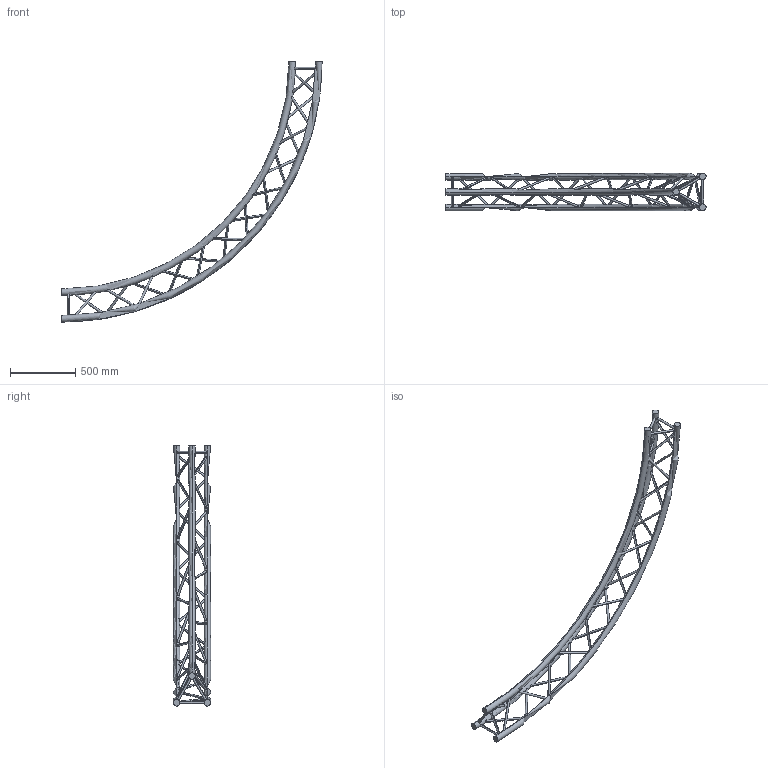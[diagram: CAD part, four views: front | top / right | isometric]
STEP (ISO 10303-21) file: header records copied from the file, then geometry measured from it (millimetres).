
FILE_DESCRIPTION (( 'STEP AP203' ), '1' );
FILE_NAME ('SXC29400PI.STEP', '2009-10-21T08:58:39', ( 'CEDIA' ), ( 'CEDIA INDUSTRIE' ), 'SwSTEP 2.0', 'SolidWorks 2009', '' );
FILE_SCHEMA (( 'CONFIG_CONTROL_DESIGN' ));
Length unit declared in the file: millimetre
Products named in the file (1): SXC29400PI
Bounding box: 2000 x 287 x 2000 mm (x, y, z)
Volume: 19765251.9 mm3; surface area: 1932943.5 mm2
Topology: 1 solids, 1 shells, 96 faces, 270 edges, 180 vertices
Faces by surface type: cylinder 84, torus 6, plane 6
Entity records: 10784 total; most frequent: CARTESIAN_POINT 8378, ORIENTED_EDGE 540, DIRECTION 314, EDGE_CURVE 270, EDGE_LOOP 180, VERTEX_POINT 180, B_SPLINE_CURVE_WITH_KNOTS 168, AXIS2_PLACEMENT_3D 115
